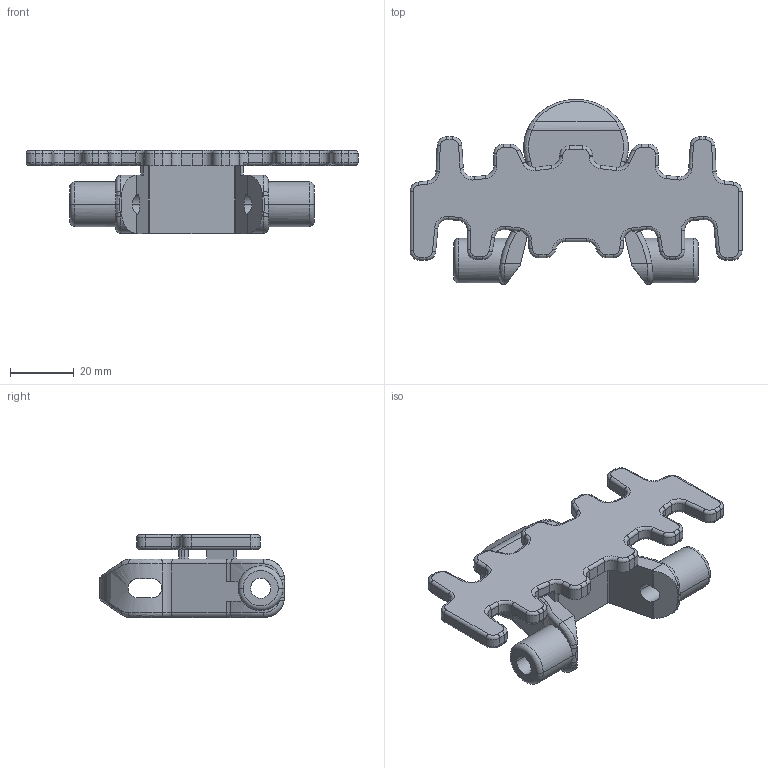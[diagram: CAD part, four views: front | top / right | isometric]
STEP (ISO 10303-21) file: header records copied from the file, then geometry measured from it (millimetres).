
FILE_DESCRIPTION(('CATIA V5 STEP Exchange'),'2;1');
FILE_NAME('C:\Users\ALI OZGUN\Desktop\881BYO104.stp','2017-12-06T09:23:42+00:00',('none'),('none'),'CATIA Version 5 Release 21 GA (IN-10)','CATIA V5 STEP AP203','none');
FILE_SCHEMA(('CONFIG_CONTROL_DESIGN'));
Length unit declared in the file: millimetre
Products named in the file (1): 881BYO104
Bounding box: 104 x 58 x 26 mm (x, y, z)
Volume: 30216.8 mm3; surface area: 16820.8 mm2
Topology: 1 solids, 1 shells, 388 faces, 967 edges, 574 vertices
Faces by surface type: cylinder 179, torus 98, plane 88, bspline 22, extrusion 1
Entity records: 12463 total; most frequent: CARTESIAN_POINT 3743, ORIENTED_EDGE 1934, DIRECTION 1516, EDGE_CURVE 967, AXIS2_PLACEMENT_3D 774, VERTEX_POINT 574, CIRCLE 442, VECTOR 412
